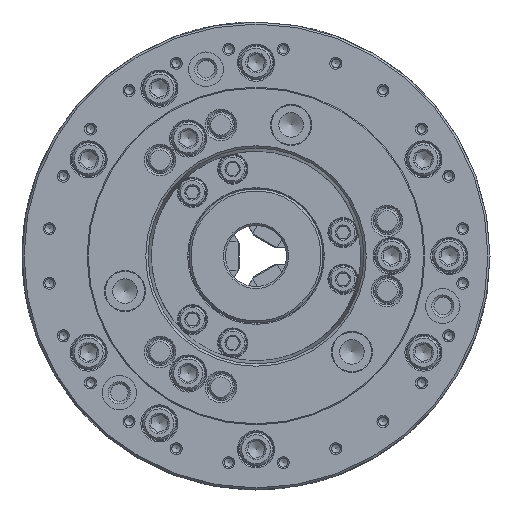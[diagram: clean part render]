
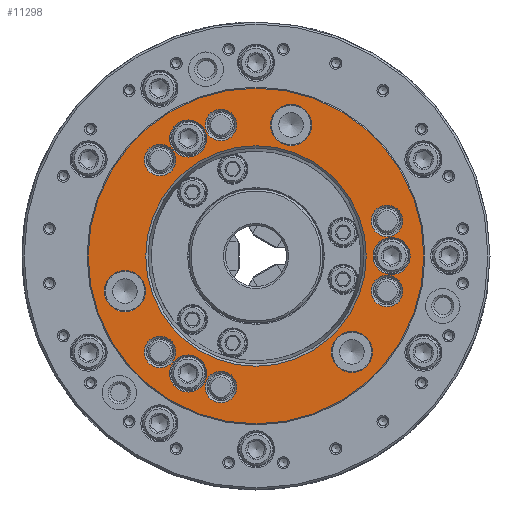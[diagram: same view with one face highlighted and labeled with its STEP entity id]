
A CAD part, left-side view. The second image highlights one B-rep face of the part: STEP entity #11298.
In plain terms, the highlighted planar face has unit normal (-1, 0, 0).
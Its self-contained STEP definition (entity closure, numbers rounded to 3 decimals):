
#361 = CIRCLE ( 'NONE', #60476, 54.189 ) ;
#649 = ORIENTED_EDGE ( 'NONE', *, *, #104460, .T. ) ;
#3295 = AXIS2_PLACEMENT_3D ( 'NONE', #99683, #16916, #74952 ) ;
#3587 = CARTESIAN_POINT ( 'NONE',  ( -110., 47.146, -47.146 ) ) ;
#4586 = AXIS2_PLACEMENT_3D ( 'NONE', #87196, #16645, #82715 ) ;
#5090 = EDGE_LOOP ( 'NONE', ( #17686 ) ) ;
#5332 = DIRECTION ( 'NONE',  ( 0., 0., 1. ) ) ;
#6102 = FACE_BOUND ( 'NONE', #56282, .T. ) ;
#6761 = VERTEX_POINT ( 'NONE', #55221 ) ;
#7191 = DIRECTION ( 'NONE',  ( -1., 0., 0. ) ) ;
#7413 = DIRECTION ( 'NONE',  ( -1., 0., 0. ) ) ;
#10863 = EDGE_CURVE ( 'NONE', #73311, #73311, #63048, .T. ) ;
#11127 = EDGE_CURVE ( 'NONE', #16846, #16846, #66506, .T. ) ;
#11298 = ADVANCED_FACE ( 'NONE', ( #84635, #36237, #28206, #47546, #6102, #28722, #36782, #94829, #30824, #54589, #88363, #55635, #14732, #21177 ), #14182, .F. ) ;
#11619 = CARTESIAN_POINT ( 'NONE',  ( -110., 64.403, -17.257 ) ) ;
#11981 = EDGE_LOOP ( 'NONE', ( #75637 ) ) ;
#12403 = CARTESIAN_POINT ( 'NONE',  ( -110., 0., 0. ) ) ;
#14111 = EDGE_LOOP ( 'NONE', ( #83704 ) ) ;
#14182 = PLANE ( 'NONE',  #58027 ) ;
#14732 = FACE_OUTER_BOUND ( 'NONE', #60010, .T. ) ;
#14758 = CARTESIAN_POINT ( 'NONE',  ( -110., 17.257, 64.403 ) ) ;
#15664 = DIRECTION ( 'NONE',  ( 0., 0., 1. ) ) ;
#16006 = EDGE_LOOP ( 'NONE', ( #47041 ) ) ;
#16645 = DIRECTION ( 'NONE',  ( -1., 0., 0. ) ) ;
#16846 = VERTEX_POINT ( 'NONE', #83441 ) ;
#16916 = DIRECTION ( 'NONE',  ( -1., 0., 0. ) ) ;
#17040 = EDGE_LOOP ( 'NONE', ( #23256 ) ) ;
#17686 = ORIENTED_EDGE ( 'NONE', *, *, #78828, .F. ) ;
#17790 = ORIENTED_EDGE ( 'NONE', *, *, #74590, .F. ) ;
#17896 = CARTESIAN_POINT ( 'NONE',  ( -110., 17.257, -56.653 ) ) ;
#19974 = EDGE_CURVE ( 'NONE', #60931, #60931, #103023, .T. ) ;
#21177 = FACE_BOUND ( 'NONE', #74929, .T. ) ;
#23256 = ORIENTED_EDGE ( 'NONE', *, *, #82304, .T. ) ;
#23979 = DIRECTION ( 'NONE',  ( 1., 0., 0. ) ) ;
#24004 = VERTEX_POINT ( 'NONE', #87435 ) ;
#25588 = DIRECTION ( 'NONE',  ( 0., 0.866, 0.5 ) ) ;
#25765 = CIRCLE ( 'NONE', #39487, 82.5 ) ;
#26547 = EDGE_LOOP ( 'NONE', ( #83368 ) ) ;
#28206 = FACE_BOUND ( 'NONE', #30569, .T. ) ;
#28722 = FACE_BOUND ( 'NONE', #78229, .T. ) ;
#28837 = CARTESIAN_POINT ( 'NONE',  ( -110., 47.146, 54.896 ) ) ;
#30569 = EDGE_LOOP ( 'NONE', ( #62281 ) ) ;
#30824 = FACE_BOUND ( 'NONE', #53552, .T. ) ;
#32307 = CARTESIAN_POINT ( 'NONE',  ( -110., 33.337, -48.642 ) ) ;
#33154 = ORIENTED_EDGE ( 'NONE', *, *, #19974, .F. ) ;
#33947 = AXIS2_PLACEMENT_3D ( 'NONE', #37783, #70610, #77069 ) ;
#34212 = DIRECTION ( 'NONE',  ( 1., 0., 0. ) ) ;
#34752 = DIRECTION ( 'NONE',  ( 0., 0., -1. ) ) ;
#35298 = VERTEX_POINT ( 'NONE', #28837 ) ;
#36237 = FACE_BOUND ( 'NONE', #17040, .T. ) ;
#36782 = FACE_BOUND ( 'NONE', #64944, .T. ) ;
#37138 = DIRECTION ( 'NONE',  ( 0., 0., 1. ) ) ;
#37783 = CARTESIAN_POINT ( 'NONE',  ( -110., 33.337, -57.742 ) ) ;
#38217 = CARTESIAN_POINT ( 'NONE',  ( -110., -64.403, -17.257 ) ) ;
#38906 = EDGE_CURVE ( 'NONE', #97899, #97899, #61499, .T. ) ;
#39037 = VERTEX_POINT ( 'NONE', #54170 ) ;
#39487 = AXIS2_PLACEMENT_3D ( 'NONE', #12403, #53865, #37138 ) ;
#40002 = DIRECTION ( 'NONE',  ( 0., 0., 1. ) ) ;
#42932 = AXIS2_PLACEMENT_3D ( 'NONE', #76896, #68849, #5332 ) ;
#43225 = DIRECTION ( 'NONE',  ( 0., 0., 1. ) ) ;
#43407 = CARTESIAN_POINT ( 'NONE',  ( -110., 64.403, -27.387 ) ) ;
#44947 = ORIENTED_EDGE ( 'NONE', *, *, #11127, .T. ) ;
#47041 = ORIENTED_EDGE ( 'NONE', *, *, #98973, .F. ) ;
#47546 = FACE_BOUND ( 'NONE', #11981, .T. ) ;
#48426 = AXIS2_PLACEMENT_3D ( 'NONE', #67550, #34212, #92272 ) ;
#48869 = DIRECTION ( 'NONE',  ( 0., 0., 1. ) ) ;
#49737 = CIRCLE ( 'NONE', #3295, 7.75 ) ;
#49812 = EDGE_CURVE ( 'NONE', #24004, #24004, #84698, .T. ) ;
#53460 = ORIENTED_EDGE ( 'NONE', *, *, #38906, .F. ) ;
#53552 = EDGE_LOOP ( 'NONE', ( #33154 ) ) ;
#53624 = CARTESIAN_POINT ( 'NONE',  ( -110., 33.338, 66.842 ) ) ;
#53772 = ORIENTED_EDGE ( 'NONE', *, *, #49812, .F. ) ;
#53865 = DIRECTION ( 'NONE',  ( -1., 0., 0. ) ) ;
#54170 = CARTESIAN_POINT ( 'NONE',  ( -110., -55.919, -42.081 ) ) ;
#54589 = FACE_BOUND ( 'NONE', #5090, .T. ) ;
#55221 = CARTESIAN_POINT ( 'NONE',  ( -110., -64.403, 25.007 ) ) ;
#55635 = FACE_BOUND ( 'NONE', #14111, .T. ) ;
#55726 = CARTESIAN_POINT ( 'NONE',  ( -110., -66.675, 0. ) ) ;
#56282 = EDGE_LOOP ( 'NONE', ( #53772 ) ) ;
#57612 = EDGE_CURVE ( 'NONE', #69848, #69848, #73377, .T. ) ;
#58027 = AXIS2_PLACEMENT_3D ( 'NONE', #103463, #94311, #70673 ) ;
#59935 = DIRECTION ( 'NONE',  ( -1., 0., 0. ) ) ;
#60010 = EDGE_LOOP ( 'NONE', ( #649 ) ) ;
#60102 = DIRECTION ( 'NONE',  ( 1., 0., 0. ) ) ;
#60124 = DIRECTION ( 'NONE',  ( -1., 0., 0. ) ) ;
#60476 = AXIS2_PLACEMENT_3D ( 'NONE', #92125, #59935, #43225 ) ;
#60931 = VERTEX_POINT ( 'NONE', #93652 ) ;
#61499 = CIRCLE ( 'NONE', #33947, 9.1 ) ;
#62281 = ORIENTED_EDGE ( 'NONE', *, *, #57612, .F. ) ;
#63048 = CIRCLE ( 'NONE', #4586, 7.75 ) ;
#64944 = EDGE_LOOP ( 'NONE', ( #89739 ) ) ;
#65152 = VERTEX_POINT ( 'NONE', #72087 ) ;
#66506 = CIRCLE ( 'NONE', #95674, 10.13 ) ;
#67550 = CARTESIAN_POINT ( 'NONE',  ( -110., -47.146, -47.146 ) ) ;
#68849 = DIRECTION ( 'NONE',  ( -1., 0., 0. ) ) ;
#69448 = VERTEX_POINT ( 'NONE', #102241 ) ;
#69848 = VERTEX_POINT ( 'NONE', #102635 ) ;
#70389 = AXIS2_PLACEMENT_3D ( 'NONE', #38217, #89292, #15664 ) ;
#70610 = DIRECTION ( 'NONE',  ( -1., 0., 0. ) ) ;
#70673 = DIRECTION ( 'NONE',  ( 0., 0., -1. ) ) ;
#71914 = EDGE_LOOP ( 'NONE', ( #44947 ) ) ;
#72087 = CARTESIAN_POINT ( 'NONE',  ( -110., 0., 82.5 ) ) ;
#73311 = VERTEX_POINT ( 'NONE', #17896 ) ;
#73377 = CIRCLE ( 'NONE', #97615, 7.75 ) ;
#73676 = EDGE_CURVE ( 'NONE', #100911, #100911, #92149, .T. ) ;
#74590 = EDGE_CURVE ( 'NONE', #35298, #35298, #87045, .T. ) ;
#74929 = EDGE_LOOP ( 'NONE', ( #17790 ) ) ;
#74952 = DIRECTION ( 'NONE',  ( 0., 0., 1. ) ) ;
#75637 = ORIENTED_EDGE ( 'NONE', *, *, #10863, .F. ) ;
#76896 = CARTESIAN_POINT ( 'NONE',  ( -110., 33.338, 57.742 ) ) ;
#77069 = DIRECTION ( 'NONE',  ( 0., 0., 1. ) ) ;
#78229 = EDGE_LOOP ( 'NONE', ( #53460 ) ) ;
#78828 = EDGE_CURVE ( 'NONE', #6761, #6761, #49737, .T. ) ;
#79951 = EDGE_CURVE ( 'NONE', #97077, #97077, #89267, .T. ) ;
#81066 = CARTESIAN_POINT ( 'NONE',  ( -110., 47.146, 47.146 ) ) ;
#81553 = CIRCLE ( 'NONE', #83277, 9.1 ) ;
#82304 = EDGE_CURVE ( 'NONE', #39037, #39037, #94679, .T. ) ;
#82715 = DIRECTION ( 'NONE',  ( 0., 0., 1. ) ) ;
#83277 = AXIS2_PLACEMENT_3D ( 'NONE', #55726, #100087, #88456 ) ;
#83368 = ORIENTED_EDGE ( 'NONE', *, *, #73676, .T. ) ;
#83441 = CARTESIAN_POINT ( 'NONE',  ( -110., -8.484, 69.468 ) ) ;
#83704 = ORIENTED_EDGE ( 'NONE', *, *, #106266, .F. ) ;
#84635 = FACE_BOUND ( 'NONE', #71914, .T. ) ;
#84698 = CIRCLE ( 'NONE', #98519, 7.75 ) ;
#87045 = CIRCLE ( 'NONE', #90554, 7.75 ) ;
#87196 = CARTESIAN_POINT ( 'NONE',  ( -110., 17.257, -64.403 ) ) ;
#87435 = CARTESIAN_POINT ( 'NONE',  ( -110., 17.257, 72.153 ) ) ;
#88363 = FACE_BOUND ( 'NONE', #16006, .T. ) ;
#88456 = DIRECTION ( 'NONE',  ( 0., 0., 1. ) ) ;
#88698 = AXIS2_PLACEMENT_3D ( 'NONE', #11619, #60102, #34752 ) ;
#89267 = CIRCLE ( 'NONE', #42932, 9.1 ) ;
#89292 = DIRECTION ( 'NONE',  ( -1., 0., 0. ) ) ;
#89739 = ORIENTED_EDGE ( 'NONE', *, *, #79951, .F. ) ;
#90554 = AXIS2_PLACEMENT_3D ( 'NONE', #81066, #7413, #48869 ) ;
#92125 = CARTESIAN_POINT ( 'NONE',  ( -110., 0., 0. ) ) ;
#92149 = CIRCLE ( 'NONE', #88698, 10.13 ) ;
#92272 = DIRECTION ( 'NONE',  ( 0., -0.866, 0.5 ) ) ;
#92843 = DIRECTION ( 'NONE',  ( 0., 0., 1. ) ) ;
#93652 = CARTESIAN_POINT ( 'NONE',  ( -110., -64.403, -9.507 ) ) ;
#94311 = DIRECTION ( 'NONE',  ( 1., 0., 0. ) ) ;
#94679 = CIRCLE ( 'NONE', #48426, 10.13 ) ;
#94829 = FACE_BOUND ( 'NONE', #26547, .T. ) ;
#95674 = AXIS2_PLACEMENT_3D ( 'NONE', #106281, #23979, #25588 ) ;
#97077 = VERTEX_POINT ( 'NONE', #53624 ) ;
#97341 = VERTEX_POINT ( 'NONE', #104368 ) ;
#97615 = AXIS2_PLACEMENT_3D ( 'NONE', #3587, #60124, #92843 ) ;
#97899 = VERTEX_POINT ( 'NONE', #32307 ) ;
#98519 = AXIS2_PLACEMENT_3D ( 'NONE', #14758, #7191, #40002 ) ;
#98973 = EDGE_CURVE ( 'NONE', #69448, #69448, #81553, .T. ) ;
#99683 = CARTESIAN_POINT ( 'NONE',  ( -110., -64.403, 17.257 ) ) ;
#100087 = DIRECTION ( 'NONE',  ( -1., 0., 0. ) ) ;
#100911 = VERTEX_POINT ( 'NONE', #43407 ) ;
#102241 = CARTESIAN_POINT ( 'NONE',  ( -110., -66.675, 9.1 ) ) ;
#102635 = CARTESIAN_POINT ( 'NONE',  ( -110., 47.146, -39.396 ) ) ;
#103023 = CIRCLE ( 'NONE', #70389, 7.75 ) ;
#103463 = CARTESIAN_POINT ( 'NONE',  ( -110., 82.5, 0. ) ) ;
#104368 = CARTESIAN_POINT ( 'NONE',  ( -110., 0., 54.189 ) ) ;
#104460 = EDGE_CURVE ( 'NONE', #65152, #65152, #25765, .T. ) ;
#106266 = EDGE_CURVE ( 'NONE', #97341, #97341, #361, .T. ) ;
#106281 = CARTESIAN_POINT ( 'NONE',  ( -110., -17.257, 64.403 ) ) ;
